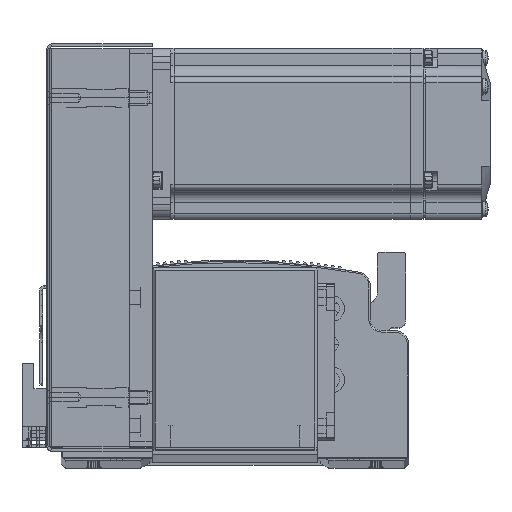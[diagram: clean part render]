
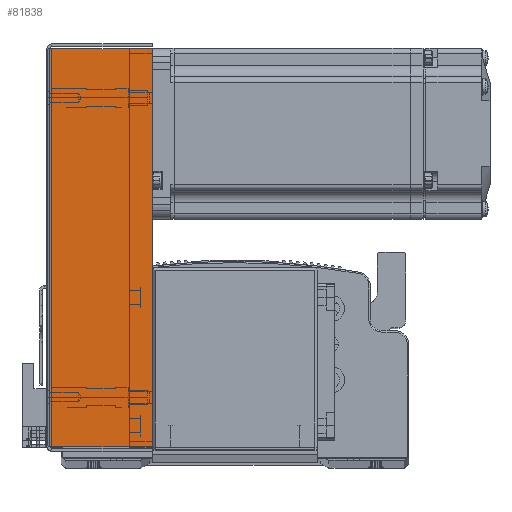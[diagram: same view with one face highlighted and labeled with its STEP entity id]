
A CAD part, top view. The second image highlights one B-rep face of the part: STEP entity #81838.
In plain terms, the highlighted planar face has unit normal (0, 0, 1) as drawn and (0, 0, -1) by its records, which use the part's own axes.
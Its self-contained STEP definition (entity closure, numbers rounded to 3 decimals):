
#5151 = EDGE_LOOP ( 'NONE', ( #28921, #28939, #28778, #28783 ) ) ;
#5621 = PLANE ( 'NONE',  #61912 ) ;
#5633 = CARTESIAN_POINT ( 'NONE',  ( 0., 0., -33.5 ) ) ;
#5634 = DIRECTION ( 'NONE',  ( 0., 0., 1. ) ) ;
#5635 = DIRECTION ( 'NONE',  ( 0., -1., 0. ) ) ;
#24583 = FACE_OUTER_BOUND ( 'NONE', #5151, .T. ) ;
#28778 = ORIENTED_EDGE ( 'NONE', *, *, #82487, .T. ) ;
#28783 = ORIENTED_EDGE ( 'NONE', *, *, #82521, .F. ) ;
#28921 = ORIENTED_EDGE ( 'NONE', *, *, #82480, .F. ) ;
#28939 = ORIENTED_EDGE ( 'NONE', *, *, #82529, .T. ) ;
#34219 = CARTESIAN_POINT ( 'NONE',  ( -69.793, 0.737, -33.5 ) ) ;
#34343 = CARTESIAN_POINT ( 'NONE',  ( 69.793, 36., -33.5 ) ) ;
#34386 = CARTESIAN_POINT ( 'NONE',  ( -69.793, 36., -33.5 ) ) ;
#34404 = CARTESIAN_POINT ( 'NONE',  ( 69.793, 0.737, -33.5 ) ) ;
#50381 = VECTOR ( 'NONE', #72739, 1000. ) ;
#50383 = VECTOR ( 'NONE', #72742, 1000. ) ;
#50396 = LINE ( 'NONE', #72708, #50383 ) ;
#50407 = LINE ( 'NONE', #72719, #50381 ) ;
#50488 = VECTOR ( 'NONE', #72876, 1000. ) ;
#50490 = VECTOR ( 'NONE', #72881, 1000. ) ;
#50512 = LINE ( 'NONE', #72877, #50490 ) ;
#50546 = LINE ( 'NONE', #72822, #50488 ) ;
#61912 = AXIS2_PLACEMENT_3D ( 'NONE', #5633, #5634, #5635 ) ;
#67968 = VERTEX_POINT ( 'NONE', #34219 ) ;
#68071 = VERTEX_POINT ( 'NONE', #34386 ) ;
#68079 = VERTEX_POINT ( 'NONE', #34343 ) ;
#68086 = VERTEX_POINT ( 'NONE', #34404 ) ;
#72708 = CARTESIAN_POINT ( 'NONE',  ( 71.5, 0.737, -33.5 ) ) ;
#72719 = CARTESIAN_POINT ( 'NONE',  ( 0., 36., -33.5 ) ) ;
#72739 = DIRECTION ( 'NONE',  ( 1., 0., 0. ) ) ;
#72742 = DIRECTION ( 'NONE',  ( 1., 0., 0. ) ) ;
#72822 = CARTESIAN_POINT ( 'NONE',  ( 69.793, 0., -33.5 ) ) ;
#72876 = DIRECTION ( 'NONE',  ( 0., 1., 0. ) ) ;
#72877 = CARTESIAN_POINT ( 'NONE',  ( -69.793, 0., -33.5 ) ) ;
#72881 = DIRECTION ( 'NONE',  ( 0., 1., 0. ) ) ;
#81838 = ADVANCED_FACE ( 'NONE', ( #24583 ), #5621, .F. ) ;
#82480 = EDGE_CURVE ( 'NONE', #67968, #68086, #50396, .T. ) ;
#82487 = EDGE_CURVE ( 'NONE', #68071, #68079, #50407, .T. ) ;
#82521 = EDGE_CURVE ( 'NONE', #68086, #68079, #50546, .T. ) ;
#82529 = EDGE_CURVE ( 'NONE', #67968, #68071, #50512, .T. ) ;
